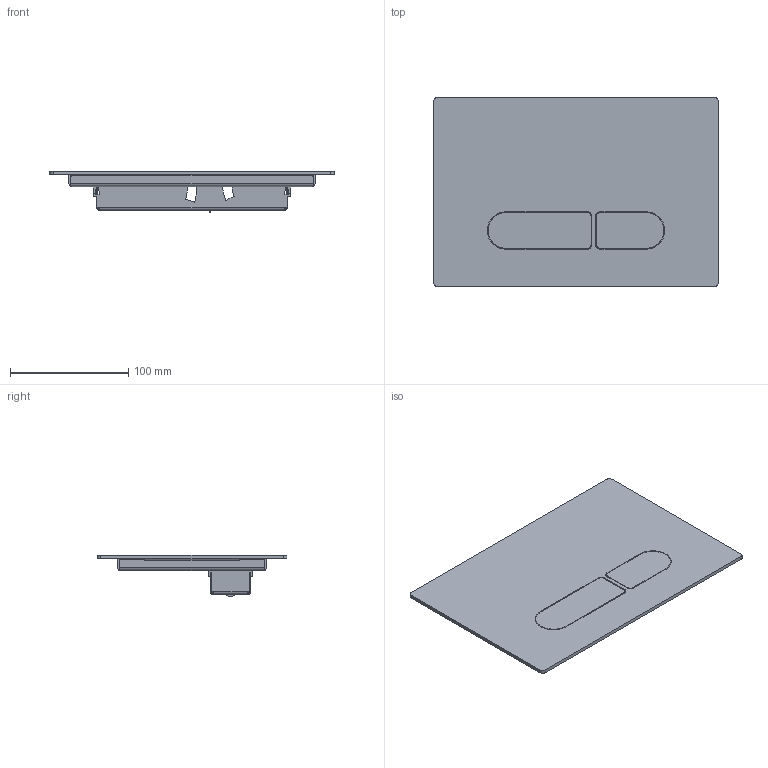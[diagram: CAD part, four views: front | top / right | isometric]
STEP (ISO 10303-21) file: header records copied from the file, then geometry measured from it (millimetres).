
FILE_DESCRIPTION((''),'2;1');
FILE_NAME('9098221_SW0001','2023-09-21T14:30:26',('carloff'),(''),'CREO PARAMETRIC BY PTC INC, 2022014','CREO PARAMETRIC BY PTC INC, 2022014','');
FILE_SCHEMA(('CONFIG_CONTROL_DESIGN'));
Length unit declared in the file: millimetre
Products named in the file (1): 9098221_SW0001
Bounding box: 240 x 160 x 35.08 mm (x, y, z)
Volume: 174007.6 mm3; surface area: 170446.8 mm2
Topology: 1 solids, 1 shells, 731 faces, 2125 edges, 1393 vertices
Faces by surface type: plane 356, cylinder 303, torus 40, cone 32
Entity records: 24806 total; most frequent: CARTESIAN_POINT 4831, ORIENTED_EDGE 4250, DIRECTION 4214, EDGE_CURVE 2125, AXIS2_PLACEMENT_3D 1478, VERTEX_POINT 1393, VECTOR 1258, LINE 1258
